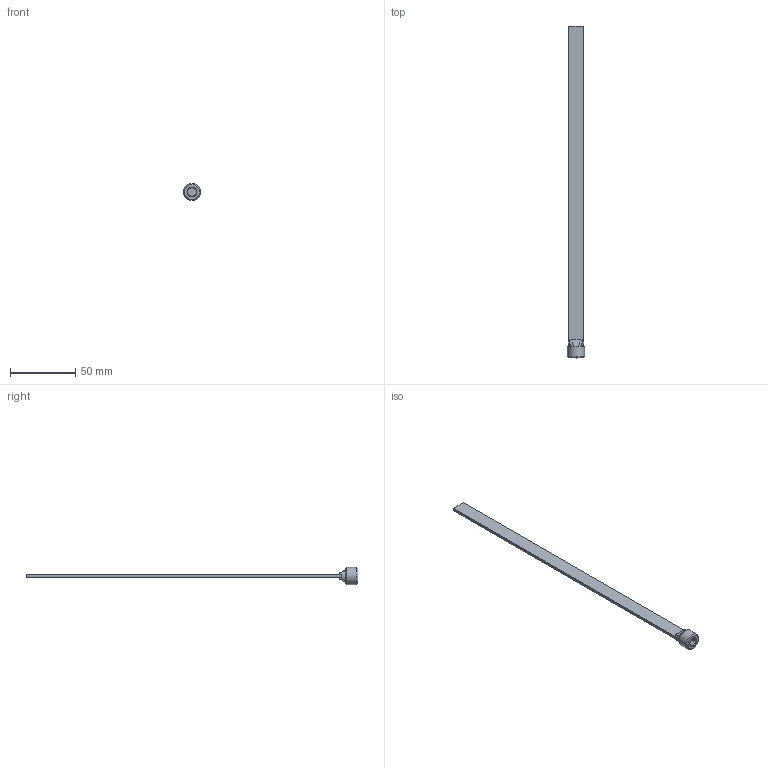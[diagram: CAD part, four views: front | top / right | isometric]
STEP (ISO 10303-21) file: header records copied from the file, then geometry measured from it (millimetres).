
FILE_DESCRIPTION(/* description */ (''),/* implementation_level */ '2;1');
FILE_NAME(/* name */ 'C:/Users/drich/Desktop/SB14X10 v2.step',/* time_stamp */ '2019-12-29T15:51:13-06:00',/* author */ (''),/* organization */ (''),/* preprocessor_version */ 'ST-DEVELOPER v18',/* originating_system */ 'Autodesk Translation Framework v8.12.0.6',/* authorisation */ '');
FILE_SCHEMA (('AUTOMOTIVE_DESIGN { 1 0 10303 214 3 1 1 }'));
Length unit declared in the file: inch
Products named in the file (1): SB14X10
Bounding box: 13.03 x 254 x 13.03 mm (x, y, z)
Volume: 6930.8 mm3; surface area: 7129.6 mm2
Topology: 1 solids, 1 shells, 39 faces, 103 edges, 67 vertices
Faces by surface type: plane 19, cylinder 6, bspline 6, torus 5, cone 3
Full cylindrical faces by diameter (mm): 10.82 x1, 13.032 x1
Entity records: 1578 total; most frequent: CARTESIAN_POINT 605, ORIENTED_EDGE 206, DIRECTION 183, EDGE_CURVE 103, AXIS2_PLACEMENT_3D 70, VERTEX_POINT 67, LINE 43, VECTOR 43
